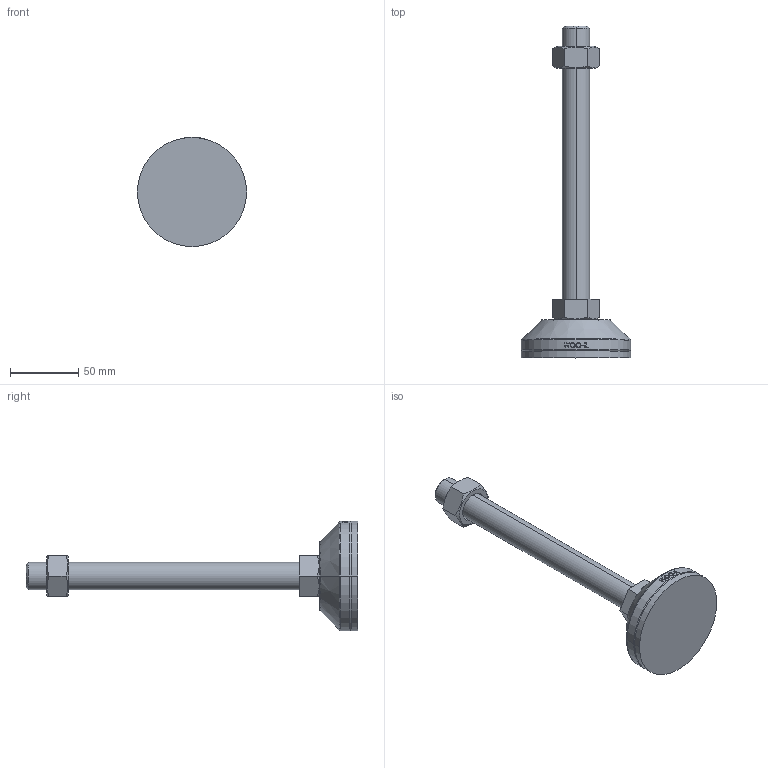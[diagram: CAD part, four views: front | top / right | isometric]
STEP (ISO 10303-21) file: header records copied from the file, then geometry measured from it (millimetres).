
FILE_DESCRIPTION (( 'STEP AP214' ), '1' );
FILE_NAME ('NHNR80-M20-200.step', '2021-01-25T06:22:42', ( '' ), ( '' ), 'SwSTEP 2.0', 'SolidWorks 2019', '' );
FILE_SCHEMA (( 'AUTOMOTIVE_DESIGN' ));
Length unit declared in the file: millimetre
Products named in the file (2): NHNR80-M20-200
Bounding box: 80 x 243 x 80 mm (x, y, z)
Volume: 197710.8 mm3; surface area: 43831.2 mm2
Topology: 4 solids, 4 shells, 105 faces, 243 edges, 156 vertices
Faces by surface type: plane 49, cylinder 18, bspline 16, cone 14, torus 8
Entity records: 4407 total; most frequent: CARTESIAN_POINT 2070, ORIENTED_EDGE 486, DIRECTION 429, EDGE_CURVE 243, AXIS2_PLACEMENT_3D 165, VERTEX_POINT 156, EDGE_LOOP 117, FACE_OUTER_BOUND 105
